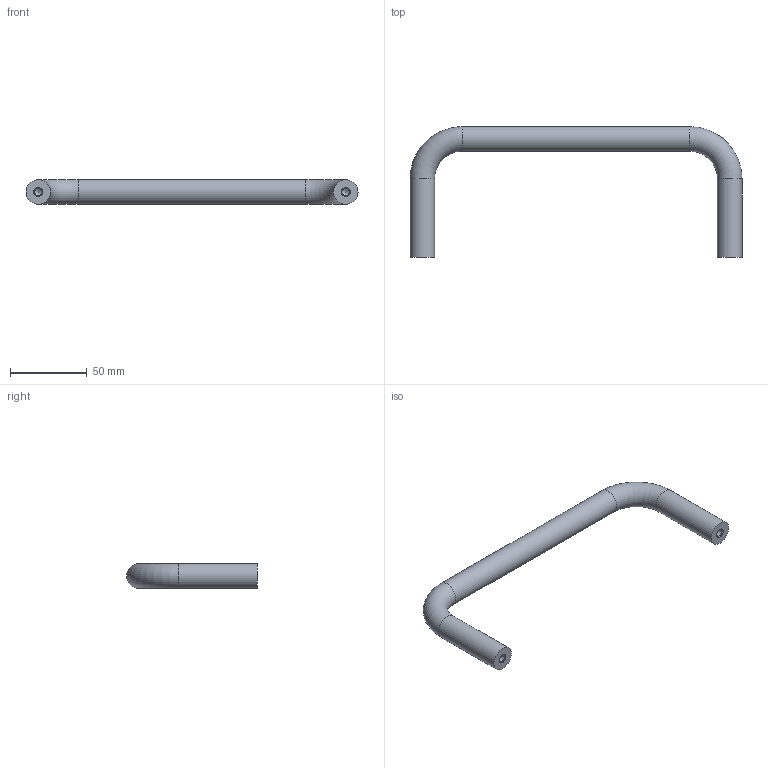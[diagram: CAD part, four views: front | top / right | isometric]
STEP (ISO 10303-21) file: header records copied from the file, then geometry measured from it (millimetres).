
FILE_DESCRIPTION(/* description */ ('STEP AP214'),/* implementation_level */ '2;1');
FILE_NAME(/* name */ 'Cabinet U-Handle_ Stainless Steel GN 435-NI-16-200-85-GS',/* time_stamp */ '2023-12-15T08:44:09+01:00',/* author */ ('License CC BY-ND 4.0'),/* organization */ ('CADENAS'),/* preprocessor_version */ 'ST-DEVELOPER v19.3',/* originating_system */ 'PARTsolutions',/* authorisation */ ' ');
FILE_SCHEMA (('AUTOMOTIVE_DESIGN {1 0 10303 214 3 1 1}'));
Length unit declared in the file: millimetre
Products named in the file (1): Cabinet U-Handle, Stainless Steel GN 435-NI-16-200-85-GS
Bounding box: 216 x 85 x 16 mm (x, y, z)
Volume: 66057.3 mm3; surface area: 17565.9 mm2
Topology: 1 solids, 1 shells, 13 faces, 30 edges, 19 vertices
Faces by surface type: cylinder 5, cone 4, plane 2, torus 2
Full cylindrical faces by diameter (mm): 4.917 x2, 16 x3
Entity records: 292 total; most frequent: DIRECTION 52, CARTESIAN_POINT 40, FACE_BOUND 26, AXIS2_PLACEMENT_3D 26, ORIENTED_EDGE 24, EDGE_LOOP 24, VERTEX_POINT 14, ADVANCED_FACE 13
